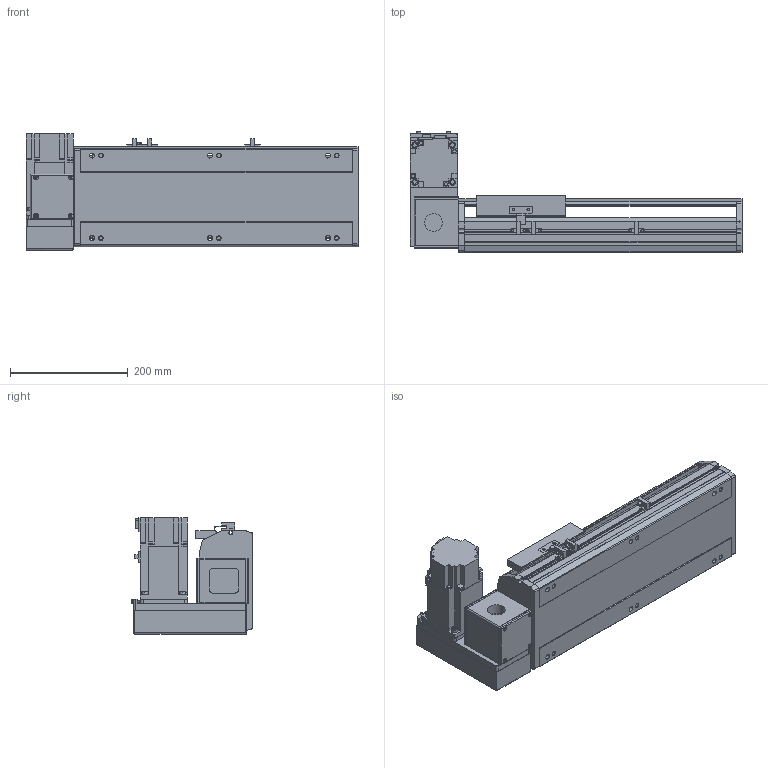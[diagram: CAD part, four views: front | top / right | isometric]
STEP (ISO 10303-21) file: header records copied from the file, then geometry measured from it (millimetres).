
FILE_DESCRIPTION(/* description */ ('STEP AP214'),/* implementation_level */ '2;1');
FILE_NAME(/* name */ 'PBS170-P40-S200-LU-T75-C1-N(0)',/* time_stamp */ '2022-06-07T10:13:56+02:00',/* author */ ('License CC BY-ND 4.0'),/* organization */ ('CADENAS'),/* preprocessor_version */ 'ST-DEVELOPER v18.102',/* originating_system */ 'PARTsolutions',/* authorisation */ ' ');
FILE_SCHEMA (('AUTOMOTIVE_DESIGN {1 0 10303 214 3 1 1}'));
Length unit declared in the file: millimetre
Products named in the file (7): PBS170-P40-S200-LU-T75-C1-N(0); PBS170_sensor; PBS170_plant; PBS170_sliser; T75-p1; PBS170T-LU_motors; PBS170-S200()_body
Assembly tree (8 placements, depth 2):
  PBS170-P40-S200-LU-T75-C1-N(0)
    PBS170_sensor  x3
    PBS170_plant
    PBS170_sliser
    T75-p1
    PBS170T-LU_motors
    PBS170-S200()_body
Bounding box: 563 x 206 x 197.3 mm (x, y, z)
Volume: 5292425.6 mm3; surface area: 751561.9 mm2
Topology: 8 solids, 8 shells, 1002 faces, 2675 edges, 1744 vertices
Faces by surface type: plane 657, cylinder 299, cone 36, sphere 8, torus 2
Full cylindrical faces by diameter (mm): 3.242 x4, 4 x2, 4.4 x4, 4.5 x6, 4.917 x4, 6 x9, 6.647 x14, 7 x2, 7.5 x4, 8 x8, 8.5 x6, 10 x4, 10.5 x6, 11 x2, 30 x2, 40 x1, 70 x1
Entity records: 28828 total; most frequent: CARTESIAN_POINT 5153, DIRECTION 4950, ORIENTED_EDGE 4728, EDGE_CURVE 2364, AXIS2_PLACEMENT_3D 1687, VERTEX_POINT 1610, LINE 1576, VECTOR 1576
